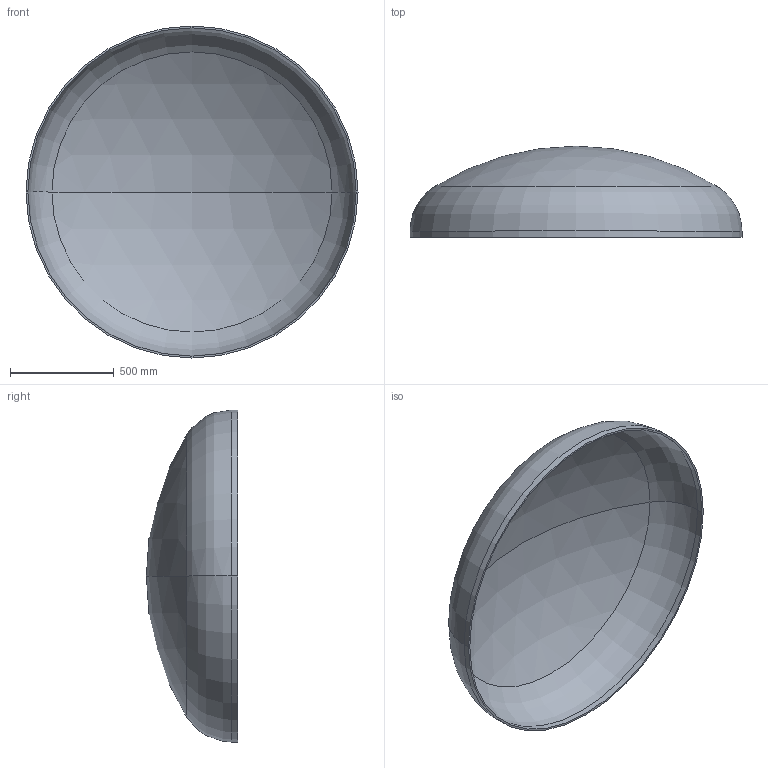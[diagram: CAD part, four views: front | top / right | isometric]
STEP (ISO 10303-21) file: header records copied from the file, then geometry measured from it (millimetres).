
FILE_DESCRIPTION (( 'STEP AP203' ), '1' );
FILE_NAME ('DIN 28013 Korbbogenform_-_Boden DIN 28013 - 1600 x 30 - I - s=9.step', '2016-07-01T11:04:07', ( '' ), ( '' ), 'SwSTEP 2.0', 'SolidWorks 2013', '' );
FILE_SCHEMA (( 'CONFIG_CONTROL_DESIGN' ));
Length unit declared in the file: millimetre
Products named in the file (1): DIN 28013 Korbbogenform_-_Boden DIN 28013 - 1600 x 30 - I - s=9
Bounding box: 1600 x 439.73 x 1600 mm (x, y, z)
Volume: 26199070.2 mm3; surface area: 5867167.4 mm2
Topology: 1 solids, 1 shells, 13 faces, 24 edges, 14 vertices
Faces by surface type: torus 4, cylinder 4, sphere 4, plane 1
Entity records: 407 total; most frequent: DIRECTION 72, CARTESIAN_POINT 52, ORIENTED_EDGE 48, AXIS2_PLACEMENT_3D 34, EDGE_CURVE 24, CIRCLE 20, VERTEX_POINT 14, EDGE_LOOP 14
